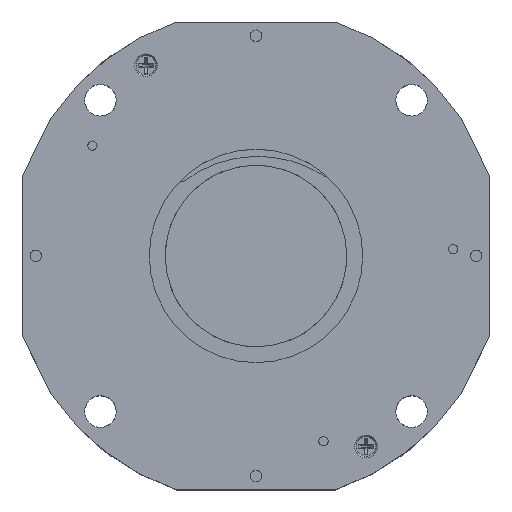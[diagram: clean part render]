
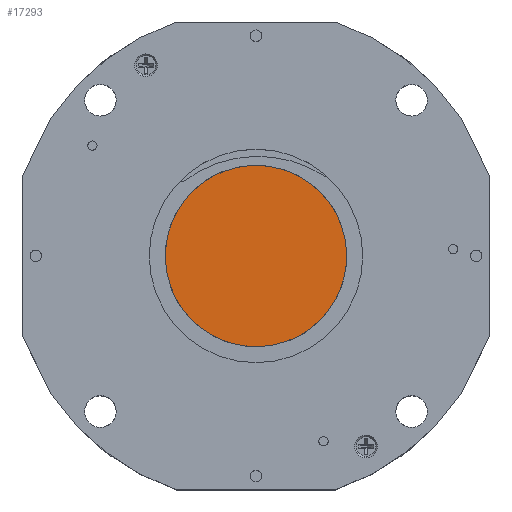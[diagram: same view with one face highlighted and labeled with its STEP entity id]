
A CAD part, top view. The second image highlights one B-rep face of the part: STEP entity #17293.
In plain terms, the highlighted planar face has unit normal (0, 0, 1).
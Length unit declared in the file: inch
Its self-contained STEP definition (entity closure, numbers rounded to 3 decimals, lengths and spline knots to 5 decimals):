
#449 = AXIS2_PLACEMENT_3D ( 'NONE', #14728, #10471, #9029 ) ;
#2794 = VERTEX_POINT ( 'NONE', #9990 ) ;
#3662 = FACE_OUTER_BOUND ( 'NONE', #8959, .T. ) ;
#5870 = ORIENTED_EDGE ( 'NONE', *, *, #10790, .T. ) ;
#6400 = CARTESIAN_POINT ( 'NONE',  ( 0., 0., 0.21775 ) ) ;
#8904 = PLANE ( 'NONE',  #449 ) ;
#8959 = EDGE_LOOP ( 'NONE', ( #5870 ) ) ;
#8969 = DIRECTION ( 'NONE',  ( 0., 0., 1. ) ) ;
#9029 = DIRECTION ( 'NONE',  ( 1., 0., 0. ) ) ;
#9036 = DIRECTION ( 'NONE',  ( 1., 0., 0. ) ) ;
#9968 = CIRCLE ( 'NONE', #15904, 0.75 ) ;
#9990 = CARTESIAN_POINT ( 'NONE',  ( 0.75, 0., 0.21775 ) ) ;
#10471 = DIRECTION ( 'NONE',  ( 0., 0., 1. ) ) ;
#10790 = EDGE_CURVE ( 'NONE', #2794, #2794, #9968, .T. ) ;
#14728 = CARTESIAN_POINT ( 'NONE',  ( 0., 0., 0.21775 ) ) ;
#15904 = AXIS2_PLACEMENT_3D ( 'NONE', #6400, #8969, #9036 ) ;
#17293 = ADVANCED_FACE ( 'NONE', ( #3662 ), #8904, .T. ) ;
